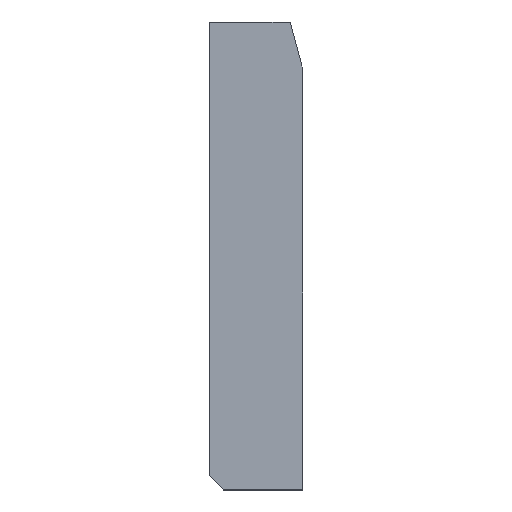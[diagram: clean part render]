
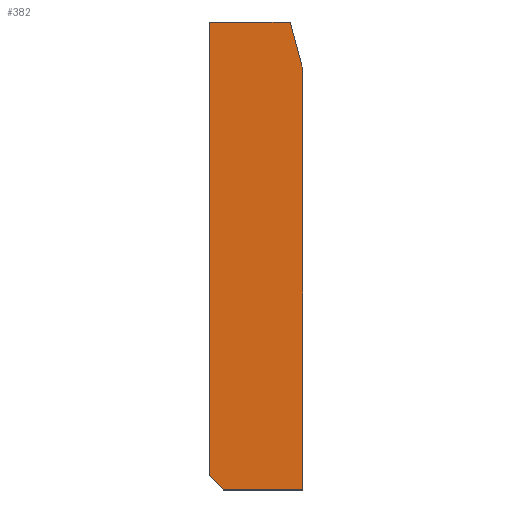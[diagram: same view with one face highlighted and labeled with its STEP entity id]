
A CAD part, top view. The second image highlights one B-rep face of the part: STEP entity #382.
In plain terms, the highlighted planar face has unit normal (0, 0, 1).
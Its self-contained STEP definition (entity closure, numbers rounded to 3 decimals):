
#70=CARTESIAN_POINT('Vertex',(0.,3.,50.)) ;
#73=CARTESIAN_POINT('Line Origine',(0.,51.5,50.)) ;
#77=CARTESIAN_POINT('Vertex',(0.,100.,50.)) ;
#320=CARTESIAN_POINT('Vertex',(3.,0.,50.)) ;
#323=CARTESIAN_POINT('Line Origine',(1.5,1.5,50.)) ;
#335=CARTESIAN_POINT('Axis2P3D Location',(15.,89.342,50.)) ;
#340=CARTESIAN_POINT('Line Origine',(11.5,0.,50.)) ;
#344=CARTESIAN_POINT('Vertex',(20.,0.,50.)) ;
#347=CARTESIAN_POINT('Line Origine',(20.,44.671,50.)) ;
#351=CARTESIAN_POINT('Vertex',(20.,89.342,50.)) ;
#354=CARTESIAN_POINT('Axis2P3D Location',(15.,89.342,50.)) ;
#358=CARTESIAN_POINT('Vertex',(19.83,90.636,50.)) ;
#361=CARTESIAN_POINT('Line Origine',(18.575,95.318,50.)) ;
#365=CARTESIAN_POINT('Vertex',(17.321,100.,50.)) ;
#368=CARTESIAN_POINT('Line Origine',(8.66,100.,50.)) ;
#74=DIRECTION('Vector Direction',(0.,-1.,0.)) ;
#324=DIRECTION('Vector Direction',(0.707,-0.707,0.)) ;
#336=DIRECTION('Axis2P3D Direction',(0.,0.,1.)) ;
#337=DIRECTION('Axis2P3D XDirection',(1.,0.,-0.)) ;
#341=DIRECTION('Vector Direction',(1.,0.,0.)) ;
#348=DIRECTION('Vector Direction',(0.,1.,0.)) ;
#355=DIRECTION('Axis2P3D Direction',(0.,0.,1.)) ;
#362=DIRECTION('Vector Direction',(-0.259,0.966,0.)) ;
#369=DIRECTION('Vector Direction',(-1.,0.,0.)) ;
#338=AXIS2_PLACEMENT_3D('Plane Axis2P3D',#335,#336,#337) ;
#356=AXIS2_PLACEMENT_3D('Circle Axis2P3D',#354,#355,$) ;
#374=ORIENTED_EDGE('',*,*,#79,.T.) ;
#375=ORIENTED_EDGE('',*,*,#327,.T.) ;
#376=ORIENTED_EDGE('',*,*,#346,.T.) ;
#377=ORIENTED_EDGE('',*,*,#353,.T.) ;
#378=ORIENTED_EDGE('',*,*,#360,.T.) ;
#379=ORIENTED_EDGE('',*,*,#367,.T.) ;
#380=ORIENTED_EDGE('',*,*,#372,.T.) ;
#75=VECTOR('Line Direction',#74,1.) ;
#325=VECTOR('Line Direction',#324,1.) ;
#342=VECTOR('Line Direction',#341,1.) ;
#349=VECTOR('Line Direction',#348,1.) ;
#363=VECTOR('Line Direction',#362,1.) ;
#370=VECTOR('Line Direction',#369,1.) ;
#382=ADVANCED_FACE('A915-100X100',(#381),#339,.T.) ;
#357=CIRCLE('generated circle',#356,5.) ;
#79=EDGE_CURVE('',#78,#71,#76,.T.) ;
#327=EDGE_CURVE('',#71,#321,#326,.T.) ;
#346=EDGE_CURVE('',#321,#345,#343,.T.) ;
#353=EDGE_CURVE('',#345,#352,#350,.T.) ;
#360=EDGE_CURVE('',#352,#359,#357,.T.) ;
#367=EDGE_CURVE('',#359,#366,#364,.T.) ;
#372=EDGE_CURVE('',#366,#78,#371,.T.) ;
#373=EDGE_LOOP('',(#374,#375,#376,#377,#378,#379,#380)) ;
#381=FACE_OUTER_BOUND('',#373,.T.) ;
#76=LINE('Line',#73,#75) ;
#326=LINE('Line',#323,#325) ;
#343=LINE('Line',#340,#342) ;
#350=LINE('Line',#347,#349) ;
#364=LINE('Line',#361,#363) ;
#371=LINE('Line',#368,#370) ;
#339=PLANE('Plane',#338) ;
#71=VERTEX_POINT('',#70) ;
#78=VERTEX_POINT('',#77) ;
#321=VERTEX_POINT('',#320) ;
#345=VERTEX_POINT('',#344) ;
#352=VERTEX_POINT('',#351) ;
#359=VERTEX_POINT('',#358) ;
#366=VERTEX_POINT('',#365) ;
